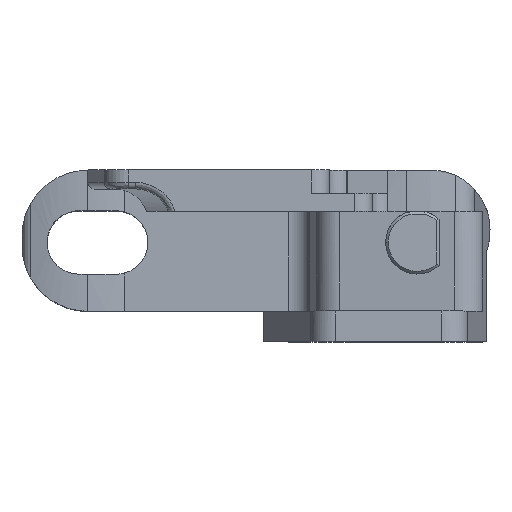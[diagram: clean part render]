
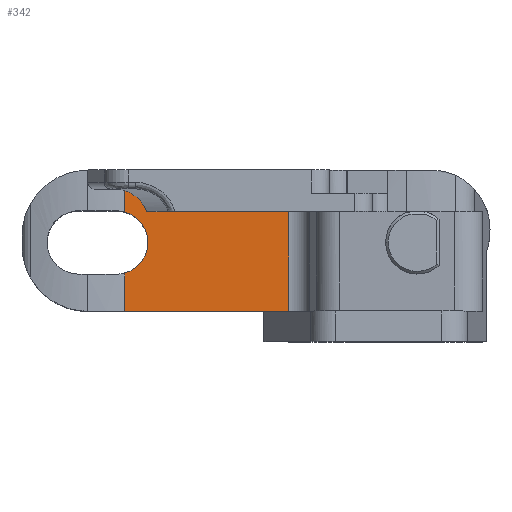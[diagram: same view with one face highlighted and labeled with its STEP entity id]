
A CAD part, top view. The second image highlights one B-rep face of the part: STEP entity #342.
In plain terms, the highlighted planar face has unit normal (0, 0, 1).
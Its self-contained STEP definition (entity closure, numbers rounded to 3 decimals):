
#139 = DIRECTION ( 'NONE',  ( 0., -1., 0. ) ) ;
#157 = DIRECTION ( 'NONE',  ( 0., 0., 1. ) ) ;
#323 = VERTEX_POINT ( 'NONE', #4671 ) ;
#342 = ADVANCED_FACE ( 'NONE', ( #2654 ), #2917, .T. ) ;
#385 = LINE ( 'NONE', #5611, #2195 ) ;
#428 = DIRECTION ( 'NONE',  ( 0., -1., 0. ) ) ;
#611 = CARTESIAN_POINT ( 'NONE',  ( -26.596, -16.626, 11.91 ) ) ;
#629 = EDGE_CURVE ( 'NONE', #5373, #1097, #5006, .T. ) ;
#659 = CARTESIAN_POINT ( 'NONE',  ( -22.882, -4.8, 11.91 ) ) ;
#729 = VECTOR ( 'NONE', #859, 1000. ) ;
#747 = ORIENTED_EDGE ( 'NONE', *, *, #4744, .T. ) ;
#803 = ORIENTED_EDGE ( 'NONE', *, *, #3499, .T. ) ;
#828 = CARTESIAN_POINT ( 'NONE',  ( -7.272, -16.626, 11.91 ) ) ;
#859 = DIRECTION ( 'NONE',  ( 1., 0., 0. ) ) ;
#918 = DIRECTION ( 'NONE',  ( 0., 0., -1. ) ) ;
#942 = EDGE_CURVE ( 'NONE', #5993, #6323, #4088, .T. ) ;
#1043 = ORIENTED_EDGE ( 'NONE', *, *, #5009, .T. ) ;
#1085 = VECTOR ( 'NONE', #1695, 1000. ) ;
#1097 = VERTEX_POINT ( 'NONE', #659 ) ;
#1149 = LINE ( 'NONE', #4884, #1085 ) ;
#1206 = CARTESIAN_POINT ( 'NONE',  ( -7.272, -4.8, 11.91 ) ) ;
#1314 = DIRECTION ( 'NONE',  ( 0., -1., 0. ) ) ;
#1428 = CARTESIAN_POINT ( 'NONE',  ( -27.203, -8.35, 11.91 ) ) ;
#1695 = DIRECTION ( 'NONE',  ( 1., 0., 0. ) ) ;
#1756 = ORIENTED_EDGE ( 'NONE', *, *, #629, .T. ) ;
#1817 = CARTESIAN_POINT ( 'NONE',  ( -26.217, -16.626, 11.91 ) ) ;
#1852 = DIRECTION ( 'NONE',  ( 0., 1., 0. ) ) ;
#1939 = ORIENTED_EDGE ( 'NONE', *, *, #2080, .T. ) ;
#1950 = CARTESIAN_POINT ( 'NONE',  ( -26.217, -11.875, 11.91 ) ) ;
#2066 = CARTESIAN_POINT ( 'NONE',  ( -9.163, -16.3, 11.91 ) ) ;
#2072 = LINE ( 'NONE', #1817, #3133 ) ;
#2080 = EDGE_CURVE ( 'NONE', #3492, #3575, #4271, .T. ) ;
#2166 = ORIENTED_EDGE ( 'NONE', *, *, #942, .T. ) ;
#2195 = VECTOR ( 'NONE', #4676, 1000. ) ;
#2255 = VERTEX_POINT ( 'NONE', #5874 ) ;
#2329 = CIRCLE ( 'NONE', #5043, 3.66 ) ;
#2470 = VECTOR ( 'NONE', #2973, 1000. ) ;
#2488 = EDGE_CURVE ( 'NONE', #6323, #3492, #2549, .T. ) ;
#2549 = LINE ( 'NONE', #2652, #2470 ) ;
#2652 = CARTESIAN_POINT ( 'NONE',  ( -26.596, -16.3, 11.91 ) ) ;
#2654 = FACE_OUTER_BOUND ( 'NONE', #5131, .T. ) ;
#2817 = EDGE_CURVE ( 'NONE', #1097, #323, #385, .T. ) ;
#2917 = PLANE ( 'NONE',  #6111 ) ;
#2973 = DIRECTION ( 'NONE',  ( 1., 0., 0. ) ) ;
#3133 = VECTOR ( 'NONE', #1314, 1000. ) ;
#3249 = DIRECTION ( 'NONE',  ( -1., 0., 0. ) ) ;
#3329 = VERTEX_POINT ( 'NONE', #3333 ) ;
#3333 = CARTESIAN_POINT ( 'NONE',  ( -26.217, -4.825, 11.91 ) ) ;
#3428 = CARTESIAN_POINT ( 'NONE',  ( -26.217, -16.3, 11.91 ) ) ;
#3492 = VERTEX_POINT ( 'NONE', #2066 ) ;
#3499 = EDGE_CURVE ( 'NONE', #2255, #3329, #2072, .T. ) ;
#3575 = VERTEX_POINT ( 'NONE', #4543 ) ;
#3740 = ORIENTED_EDGE ( 'NONE', *, *, #2817, .T. ) ;
#3793 = EDGE_CURVE ( 'NONE', #2255, #323, #1149, .T. ) ;
#4088 = LINE ( 'NONE', #4145, #5561 ) ;
#4145 = CARTESIAN_POINT ( 'NONE',  ( -26.217, -16.626, 11.91 ) ) ;
#4271 = LINE ( 'NONE', #4658, #729 ) ;
#4386 = VECTOR ( 'NONE', #3249, 1000. ) ;
#4392 = DIRECTION ( 'NONE',  ( 1., 0., 0. ) ) ;
#4543 = CARTESIAN_POINT ( 'NONE',  ( -7.272, -16.3, 11.91 ) ) ;
#4634 = LINE ( 'NONE', #828, #6397 ) ;
#4658 = CARTESIAN_POINT ( 'NONE',  ( -26.596, -16.3, 11.91 ) ) ;
#4671 = CARTESIAN_POINT ( 'NONE',  ( -22.882, 0., 11.91 ) ) ;
#4676 = DIRECTION ( 'NONE',  ( 0., 1., 0. ) ) ;
#4739 = ORIENTED_EDGE ( 'NONE', *, *, #3793, .F. ) ;
#4744 = EDGE_CURVE ( 'NONE', #3575, #5373, #4634, .T. ) ;
#4884 = CARTESIAN_POINT ( 'NONE',  ( -31.296, 0., 11.91 ) ) ;
#5006 = LINE ( 'NONE', #5887, #4386 ) ;
#5009 = EDGE_CURVE ( 'NONE', #3329, #5993, #2329, .T. ) ;
#5043 = AXIS2_PLACEMENT_3D ( 'NONE', #1428, #918, #428 ) ;
#5131 = EDGE_LOOP ( 'NONE', ( #1756, #3740, #4739, #803, #1043, #2166, #6069, #1939, #747 ) ) ;
#5373 = VERTEX_POINT ( 'NONE', #1206 ) ;
#5561 = VECTOR ( 'NONE', #139, 1000. ) ;
#5611 = CARTESIAN_POINT ( 'NONE',  ( -22.882, -4.8, 11.91 ) ) ;
#5874 = CARTESIAN_POINT ( 'NONE',  ( -26.217, 0., 11.91 ) ) ;
#5887 = CARTESIAN_POINT ( 'NONE',  ( -26.596, -4.8, 11.91 ) ) ;
#5993 = VERTEX_POINT ( 'NONE', #1950 ) ;
#6069 = ORIENTED_EDGE ( 'NONE', *, *, #2488, .T. ) ;
#6111 = AXIS2_PLACEMENT_3D ( 'NONE', #611, #157, #4392 ) ;
#6323 = VERTEX_POINT ( 'NONE', #3428 ) ;
#6397 = VECTOR ( 'NONE', #1852, 1000. ) ;
